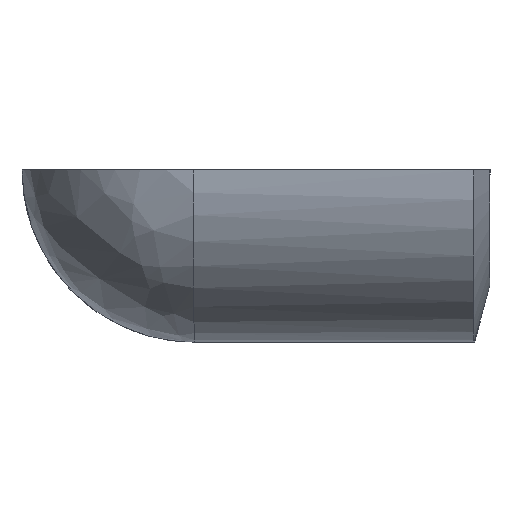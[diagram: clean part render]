
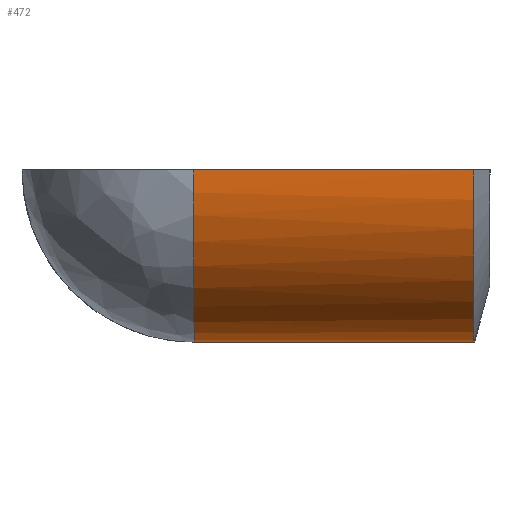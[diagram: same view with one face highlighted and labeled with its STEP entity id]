
A CAD part, left-side view. The second image highlights one B-rep face of the part: STEP entity #472.
In plain terms, the highlighted cylindrical face has radius 14.287 mm (diameter 28.575 mm), a partial arc.
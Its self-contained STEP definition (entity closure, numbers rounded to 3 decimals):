
#115=ELLIPSE('',#606,14.288,14.288);
#118=ELLIPSE('',#613,20.206,14.288);
#124=CYLINDRICAL_SURFACE('',#612,14.288);
#145=VECTOR('',#545,1.);
#150=VECTOR('',#550,1.);
#173=LINE('',#963,#145);
#178=LINE('',#972,#150);
#207=VERTEX_POINT('',#796);
#211=VERTEX_POINT('',#813);
#220=VERTEX_POINT('',#964);
#223=VERTEX_POINT('',#971);
#224=VERTEX_POINT('',#973);
#241=CIRCLE('',#614,14.288);
#274=EDGE_CURVE('',#211,#207,#115,.T.);
#285=EDGE_CURVE('',#220,#207,#173,.T.);
#290=EDGE_CURVE('',#224,#223,#178,.T.);
#297=EDGE_CURVE('',#211,#224,#118,.T.);
#298=EDGE_CURVE('',#223,#220,#241,.T.);
#387=ORIENTED_EDGE('',*,*,#285,.T.);
#388=ORIENTED_EDGE('',*,*,#274,.F.);
#389=ORIENTED_EDGE('',*,*,#297,.T.);
#390=ORIENTED_EDGE('',*,*,#290,.T.);
#391=ORIENTED_EDGE('',*,*,#298,.T.);
#432=EDGE_LOOP('',(#387,#388,#389,#390,#391));
#452=FACE_BOUND('',#432,.T.);
#472=ADVANCED_FACE('',(#452),#124,.T.);
#533=DIRECTION('',(0.004,1.,0.));
#534=DIRECTION('',(-14.288,0.063,0.));
#545=DIRECTION('',(0.,1.,0.));
#550=DIRECTION('',(0.,-1.,0.));
#559=DIRECTION('',(0.,1.,0.));
#560=DIRECTION('',(14.288,0.,0.));
#561=DIRECTION('',(-0.707,-0.707,0.));
#562=DIRECTION('',(14.288,-14.288,0.));
#563=DIRECTION('',(0.,1.,0.));
#564=DIRECTION('',(14.288,0.,0.));
#606=AXIS2_PLACEMENT_3D('',#814,#533,#534);
#612=AXIS2_PLACEMENT_3D('',#985,#559,#560);
#613=AXIS2_PLACEMENT_3D('',#986,#561,#562);
#614=AXIS2_PLACEMENT_3D('',#987,#563,#564);
#796=CARTESIAN_POINT('',(-14.288,24.575,0.));
#813=CARTESIAN_POINT('',(0.,24.511,-14.288));
#814=CARTESIAN_POINT('',(0.,24.511,0.));
#963=CARTESIAN_POINT('',(-14.288,12.963,0.));
#964=CARTESIAN_POINT('',(-14.288,1.351,0.));
#971=CARTESIAN_POINT('',(14.288,1.351,0.));
#972=CARTESIAN_POINT('',(14.288,12.963,0.));
#973=CARTESIAN_POINT('',(14.288,10.224,0.));
#985=CARTESIAN_POINT('',(0.,0.,0.));
#986=CARTESIAN_POINT('',(0.,24.511,0.));
#987=CARTESIAN_POINT('',(0.,1.351,0.));
